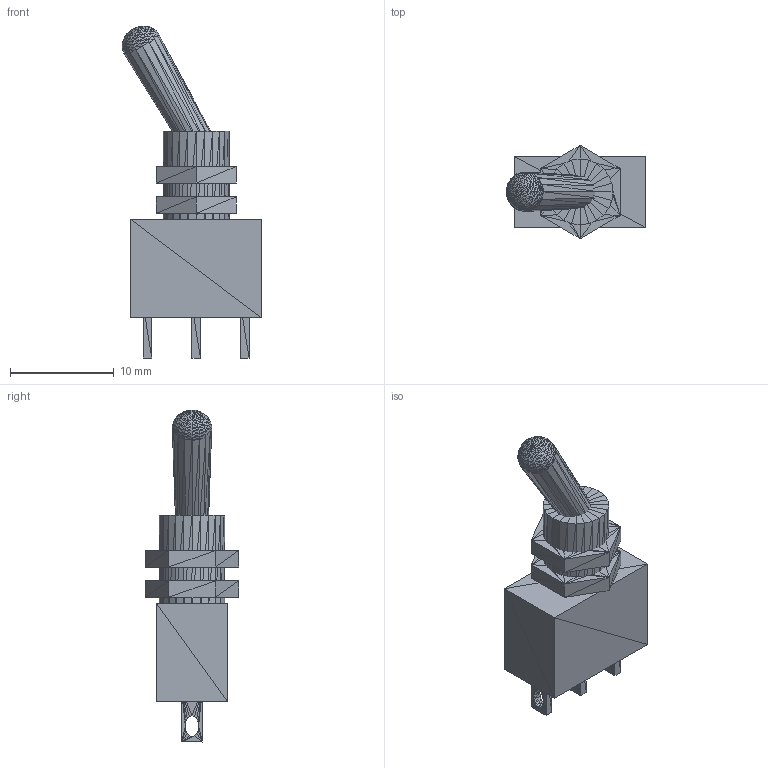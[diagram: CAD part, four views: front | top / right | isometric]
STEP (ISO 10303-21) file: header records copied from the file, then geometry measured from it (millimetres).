
FILE_DESCRIPTION(('HOOPS Exchange Step'),'2;1');
FILE_NAME('***.stp');
FILE_SCHEMA( ('AP242_MANAGED_MODEL_BASED_3D_ENGINEERING_MIM_LF {1 0 10303 442 1 1 4 }') );
Length unit declared in the file: inch
Products named in the file (9): SWSMSPDT3P_TOG_2; SWSMSPDT3P_TOG_3; SWSMSPDT3P_TOG_4; SWSMSPDT3P_TOG_5; SWSMSPDT3P_TOG_6; SWSMSPDT3P_TOG_7; SWSMSPDT3P_TOG_8; SWSMSPDT3P_TOG_9; SWSMSPDT3P_TOG
Assembly tree (8 placements, depth 2):
  SWSMSPDT3P_TOG
    SWSMSPDT3P_TOG_2
    SWSMSPDT3P_TOG_3
    SWSMSPDT3P_TOG_4
    SWSMSPDT3P_TOG_5
    SWSMSPDT3P_TOG_6
    SWSMSPDT3P_TOG_7
    SWSMSPDT3P_TOG_8
    SWSMSPDT3P_TOG_9
Bounding box: 13.5 x 9.02 x 32.05 mm (x, y, z)
Volume: 849.9 mm3; surface area: 1975.7 mm2
Topology: 4 solids, 1644 shells, 1904 faces, 1610 edges, 534 vertices
Faces by surface type: plane 1904
Entity records: 30440 total; most frequent: ORIENTED_EDGE 5712, DIRECTION 5454, CARTESIAN_POINT 4066, AXIS2_PLACEMENT_3D 1922, PLANE 1904, EDGE_LOOP 1904, FACE_BOUND 1904, ADVANCED_FACE 1904
